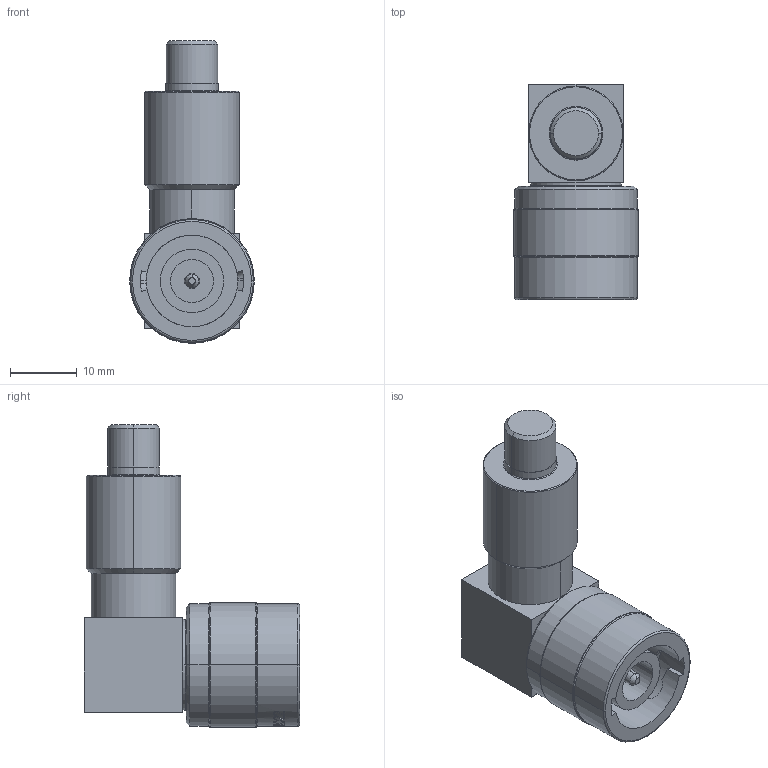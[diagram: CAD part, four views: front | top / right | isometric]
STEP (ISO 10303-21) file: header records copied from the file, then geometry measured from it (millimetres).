
FILE_DESCRIPTION((''),'2;1');
FILE_NAME('CCR022','2019-12-02T16:21:11',('paul.nurczyk'),('Carlisle Interconnect Technologies'),'CREO PARAMETRIC BY PTC INC, 2017260','CREO PARAMETRIC BY PTC INC, 2017260','');
FILE_SCHEMA(('CONFIG_CONTROL_DESIGN'));
Length unit declared in the file: inch
Products named in the file (1): CCR022
Bounding box: 18.72 x 32.28 x 45.42 mm (x, y, z)
Volume: 10088.4 mm3; surface area: 4470.9 mm2
Topology: 1 solids, 1 shells, 413 faces, 1140 edges, 750 vertices
Faces by surface type: bspline 249, plane 101, cylinder 39, cone 16, torus 8
Entity records: 19178 total; most frequent: CARTESIAN_POINT 9150, ORIENTED_EDGE 2280, DIRECTION 1822, EDGE_CURVE 1140, VERTEX_POINT 750, AXIS2_PLACEMENT_3D 668, CIRCLE 504, VECTOR 486
